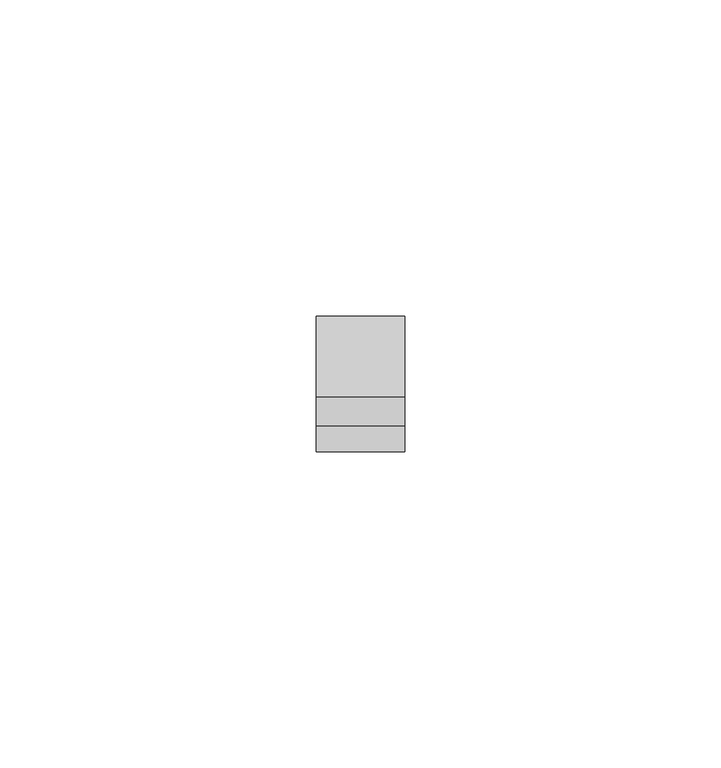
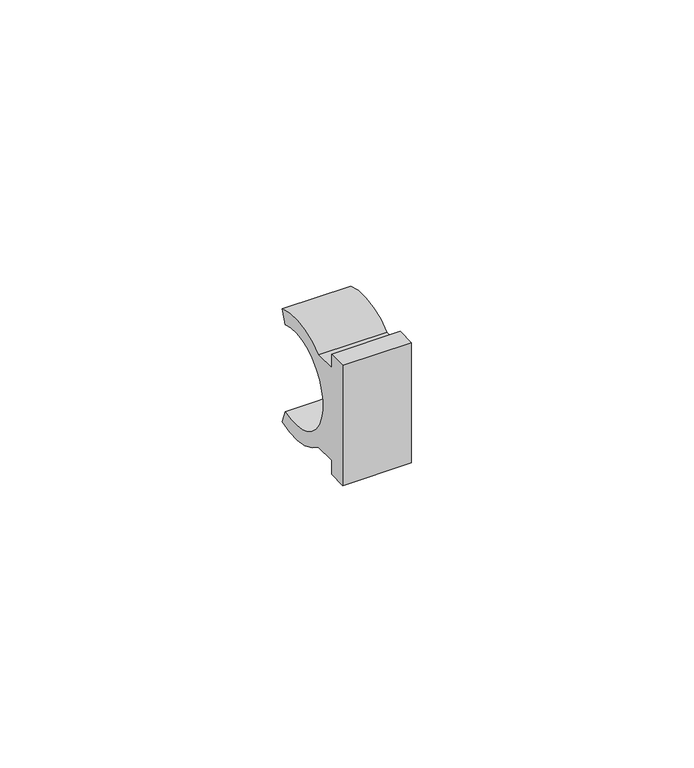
"""IFC4 building model written with IfcOpenShell, lengths in millimetres: valve geometry, PP-R_Clip : DN20 PP-R single clip."""

from ifc_helpers import new_model, si_unit, point, frame, frame_2d, origin, place, context, project, spatial, polyline, circle_curve, trimmed, segment, composite_curve, outline, extrude, source, transform, mapped, element, save


def valve_1c483308(model_context):
    return source(origin(), model_context, "Body", "SweptSolid", [
        extrude(outline(composite_curve([segment(trimmed(circle_curve(frame_2d((0.0, -7.0873)), 10.0), [point((3.4202014, 2.3096262))], [point((3.4202014, -16.4842262))], True, "CARTESIAN"), True, "CONTINUOUS"), segment(polyline([(3.4202014, -16.4842262), (4.4462619, -19.303304)]), True, "CONTINUOUS"), segment(trimmed(circle_curve(frame_2d((0.0, -7.0873)), 13.0), [point((4.4462619, -19.303304))], [point((-8.3066239, -17.0873))], False, "CARTESIAN"), True, "CONTINUOUS"), segment(polyline([(-8.3066239, -17.0873), (-13.0, -17.0873), (-13.0, -20.0873), (-17.0, -20.0873), (-17.0, 5.9127), (-13.0, 5.9127), (-13.0, 2.9127), (-8.3066239, 2.9127)]), True, "CONTINUOUS"), segment(trimmed(circle_curve(frame_2d((0.0, -7.0873)), 13.0), [point((-8.3066239, 2.9127))], [point((4.4462619, 5.1287041))], False, "CARTESIAN"), True, "CONTINUOUS"), segment(polyline([(4.4462619, 5.1287041), (3.4202014, 2.3096262)]), True, "CONTINUOUS")], self_intersect=False)), frame((9.5156627, 0.0, 0.0), z_axis=(1.0, 0.0, 0.0), x_axis=(0.0, 1.0, 0.0)), (0.0, 0.0, 1.0), 14.0),
    ])


if __name__ == "__main__":
    model = new_model("IFC4")
    model_context = context("Model", 3, world=origin())
    ifc_project = project(units=[si_unit("LENGTHUNIT", "METRE", prefix="MILLI")], contexts=[model_context])
    site = spatial("IfcSite", under=ifc_project)
    building = spatial("IfcBuilding", under=site)
    placement = place(None, origin())
    valve_shape = valve_1c483308(model_context)
    element("IfcValve", 1, ObjectType="PP-R_Clip : DN20 PP-R single clip", at=placement, inside=building, context=model_context, shape_type="MappedRepresentation", body=[
        mapped(valve_shape, transform((0.0, 0.0, 0.0), x_axis=(1.0, 0.0, 0.0), y_axis=(0.0, 1.0, 0.0), z_axis=(0.0, 0.0, 1.0))),
    ])
    save(model, "model.ifc")
